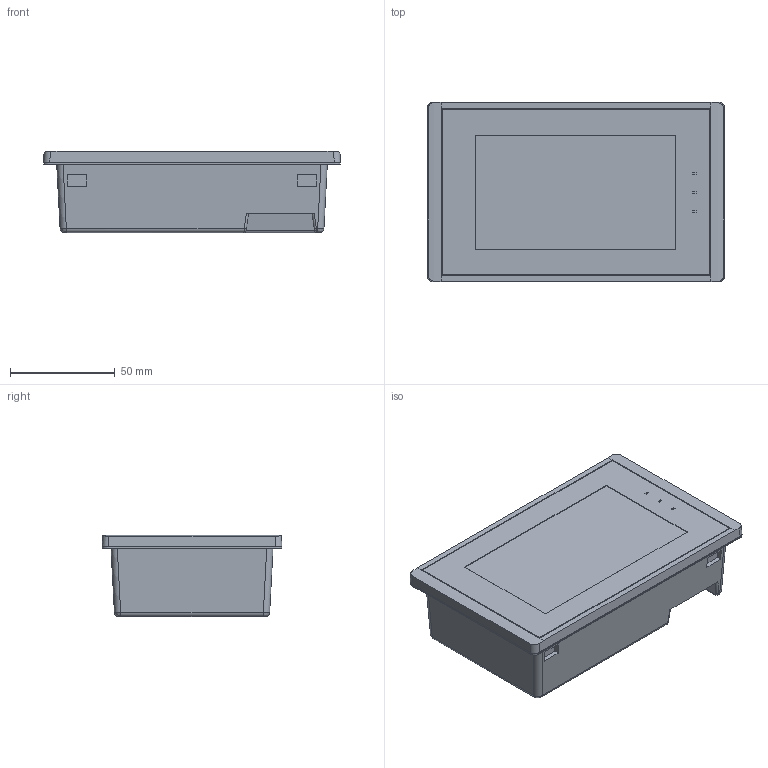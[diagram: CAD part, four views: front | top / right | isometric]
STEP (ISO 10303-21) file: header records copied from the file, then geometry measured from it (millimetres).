
FILE_DESCRIPTION((''),'2;1');
FILE_NAME('2043T','2022-07-23T15:03:22',('Administrator'),(''),'CREO PARAMETRIC BY PTC INC, 2018050','CREO PARAMETRIC BY PTC INC, 2018050','');
FILE_SCHEMA(('CONFIG_CONTROL_DESIGN'));
Length unit declared in the file: millimetre
Products named in the file (1): 2043T
Bounding box: 142 x 86 x 38.9 mm (x, y, z)
Volume: 373424.1 mm3; surface area: 51235.4 mm2
Topology: 1 solids, 7 shells, 541 faces, 1363 edges, 889 vertices
Faces by surface type: plane 383, cylinder 124, bspline 10, cone 8, extrusion 8, torus 8
Entity records: 16741 total; most frequent: CARTESIAN_POINT 3673, ORIENTED_EDGE 2726, DIRECTION 2573, EDGE_CURVE 1363, VECTOR 1059, LINE 1051, VERTEX_POINT 889, AXIS2_PLACEMENT_3D 757
